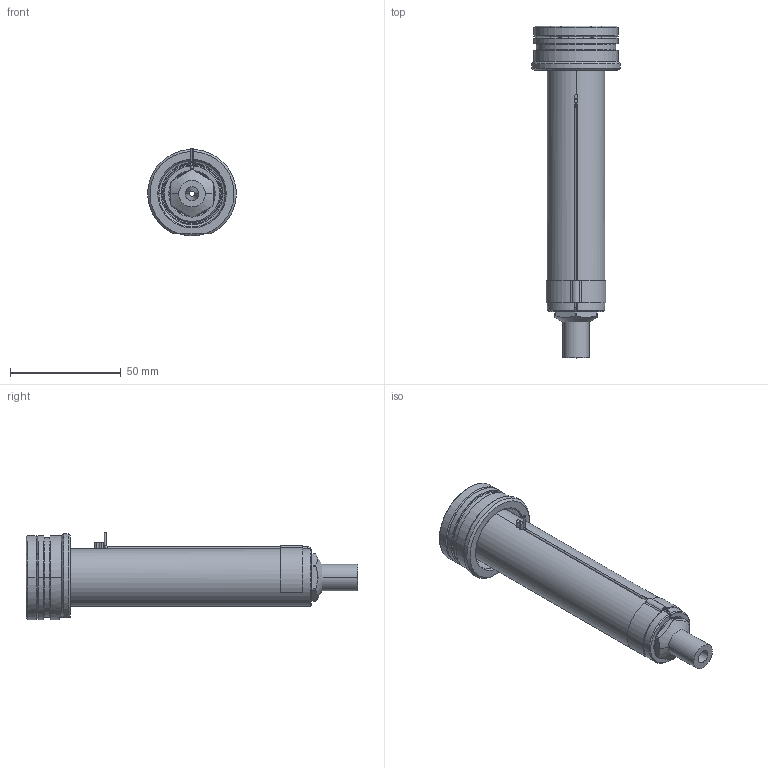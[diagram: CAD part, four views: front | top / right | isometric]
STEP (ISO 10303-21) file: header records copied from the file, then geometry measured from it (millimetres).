
FILE_DESCRIPTION((''),'2;1');
FILE_NAME('EO08_SG_ESG_120_SW','2024-02-19T12:22:25',('sundharh'),(''),'CREO PARAMETRIC BY PTC INC, 2023154','CREO PARAMETRIC BY PTC INC, 2023154','');
FILE_SCHEMA(('CONFIG_CONTROL_DESIGN'));
Length unit declared in the file: millimetre
Products named in the file (1): EO08_SG_ESG_120_SW
Bounding box: 39.88 x 150 x 39.52 mm (x, y, z)
Volume: 74527.2 mm3; surface area: 21437.8 mm2
Topology: 1 solids, 1 shells, 167 faces, 419 edges, 256 vertices
Faces by surface type: cylinder 64, plane 44, cone 33, torus 19, bspline 4, sphere 3
Entity records: 6172 total; most frequent: CARTESIAN_POINT 2099, DIRECTION 895, ORIENTED_EDGE 826, EDGE_CURVE 413, AXIS2_PLACEMENT_3D 370, VERTEX_POINT 256, CIRCLE 207, EDGE_LOOP 183
